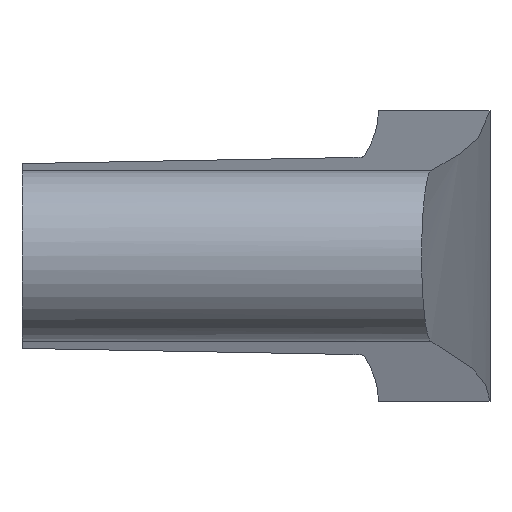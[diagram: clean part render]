
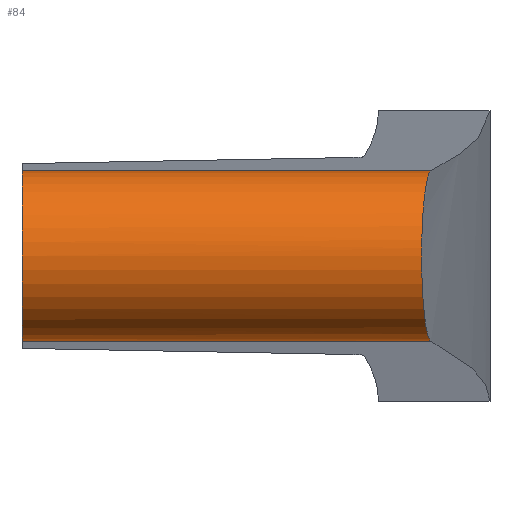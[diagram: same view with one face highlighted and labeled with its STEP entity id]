
A CAD part, left-side view. The second image highlights one B-rep face of the part: STEP entity #84.
In plain terms, the highlighted cylindrical face has radius 5.286 mm (diameter 10.571 mm), a partial arc.
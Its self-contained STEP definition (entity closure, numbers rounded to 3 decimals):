
#84 = ADVANCED_FACE( '', ( #114 ), #115, .T. );
#114 = FACE_OUTER_BOUND( '', #156, .T. );
#115 = CYLINDRICAL_SURFACE( '', #157, 5.286 );
#156 = EDGE_LOOP( '', ( #246, #247, #248, #249, #250 ) );
#157 = AXIS2_PLACEMENT_3D( '', #251, #252, #253 );
#246 = ORIENTED_EDGE( '', *, *, #369, .F. );
#247 = ORIENTED_EDGE( '', *, *, #370, .F. );
#248 = ORIENTED_EDGE( '', *, *, #371, .F. );
#249 = ORIENTED_EDGE( '', *, *, #365, .T. );
#250 = ORIENTED_EDGE( '', *, *, #372, .F. );
#251 = CARTESIAN_POINT( '', ( -2.214, 60., 0. ) );
#252 = DIRECTION( '', ( 0., 1., 0. ) );
#253 = DIRECTION( '', ( -0.056, 0., -0.998 ) );
#365 = EDGE_CURVE( '', #435, #433, #436, .T. );
#369 = EDGE_CURVE( '', #442, #443, #444, .T. );
#370 = EDGE_CURVE( '', #445, #442, #446, .T. );
#371 = EDGE_CURVE( '', #435, #445, #447, .T. );
#372 = EDGE_CURVE( '', #443, #433, #448, .T. );
#433 = VERTEX_POINT( '', #560 );
#435 = VERTEX_POINT( '', #562 );
#436 = LINE( '', #563, #564 );
#442 = VERTEX_POINT( '', #572 );
#443 = VERTEX_POINT( '', #573 );
#444 = B_SPLINE_CURVE_WITH_KNOTS( '', 3, ( #574, #575, #576, #577, #578, #579, #580, #581, #582, #583, #584, #585, #586, #587, #588, #589, #590, #591 ), .UNSPECIFIED., .F., .F., ( 4, 2, 2, 2, 2, 2, 2, 2, 4 ), ( -7.695, -6.988, -5.986, -4.983, -3.981, -2.986, -1.991, -0.995, 0. ), .UNSPECIFIED. );
#445 = VERTEX_POINT( '', #592 );
#446 = LINE( '', #593, #594 );
#447 = CIRCLE( '', #595, 5.286 );
#448 = B_SPLINE_CURVE_WITH_KNOTS( '', 3, ( #596, #597, #598, #599, #600, #601, #602, #603, #604, #605, #606, #607, #608, #609, #610, #611, #612, #613 ), .UNSPECIFIED., .F., .F., ( 4, 2, 2, 2, 2, 2, 2, 2, 4 ), ( 0., 0.995, 1.991, 2.986, 3.981, 4.983, 5.986, 6.988, 7.695 ), .UNSPECIFIED. );
#560 = CARTESIAN_POINT( '', ( -2.51, -25.336, -5.277 ) );
#562 = CARTESIAN_POINT( '', ( -2.51, 0., -5.277 ) );
#563 = CARTESIAN_POINT( '', ( -2.51, 60., -5.277 ) );
#564 = VECTOR( '', #701, 1. );
#572 = CARTESIAN_POINT( '', ( -2.51, -25.336, 5.277 ) );
#573 = CARTESIAN_POINT( '', ( -7.5, -24.764, 0. ) );
#574 = CARTESIAN_POINT( '', ( -2.51, -25.336, 5.277 ) );
#575 = CARTESIAN_POINT( '', ( -2.748, -25.31, 5.264 ) );
#576 = CARTESIAN_POINT( '', ( -2.99, -25.283, 5.234 ) );
#577 = CARTESIAN_POINT( '', ( -3.573, -25.218, 5.12 ) );
#578 = CARTESIAN_POINT( '', ( -3.913, -25.18, 5.018 ) );
#579 = CARTESIAN_POINT( '', ( -4.565, -25.106, 4.747 ) );
#580 = CARTESIAN_POINT( '', ( -4.878, -25.07, 4.579 ) );
#581 = CARTESIAN_POINT( '', ( -5.456, -25.004, 4.19 ) );
#582 = CARTESIAN_POINT( '', ( -5.721, -24.973, 3.969 ) );
#583 = CARTESIAN_POINT( '', ( -6.19, -24.918, 3.499 ) );
#584 = CARTESIAN_POINT( '', ( -6.409, -24.893, 3.234 ) );
#585 = CARTESIAN_POINT( '', ( -6.796, -24.847, 2.658 ) );
#586 = CARTESIAN_POINT( '', ( -6.964, -24.827, 2.346 ) );
#587 = CARTESIAN_POINT( '', ( -7.233, -24.796, 1.696 ) );
#588 = CARTESIAN_POINT( '', ( -7.335, -24.784, 1.357 ) );
#589 = CARTESIAN_POINT( '', ( -7.468, -24.768, 0.675 ) );
#590 = CARTESIAN_POINT( '', ( -7.5, -24.764, 0.332 ) );
#591 = CARTESIAN_POINT( '', ( -7.5, -24.764, 0. ) );
#592 = CARTESIAN_POINT( '', ( -2.51, 0., 5.277 ) );
#593 = CARTESIAN_POINT( '', ( -2.51, 60., 5.277 ) );
#594 = VECTOR( '', #707, 1. );
#595 = AXIS2_PLACEMENT_3D( '', #708, #709, #710 );
#596 = CARTESIAN_POINT( '', ( -7.5, -24.764, 0. ) );
#597 = CARTESIAN_POINT( '', ( -7.5, -24.764, -0.332 ) );
#598 = CARTESIAN_POINT( '', ( -7.468, -24.768, -0.675 ) );
#599 = CARTESIAN_POINT( '', ( -7.335, -24.784, -1.357 ) );
#600 = CARTESIAN_POINT( '', ( -7.233, -24.796, -1.696 ) );
#601 = CARTESIAN_POINT( '', ( -6.964, -24.827, -2.346 ) );
#602 = CARTESIAN_POINT( '', ( -6.796, -24.847, -2.658 ) );
#603 = CARTESIAN_POINT( '', ( -6.409, -24.893, -3.234 ) );
#604 = CARTESIAN_POINT( '', ( -6.19, -24.918, -3.499 ) );
#605 = CARTESIAN_POINT( '', ( -5.721, -24.973, -3.969 ) );
#606 = CARTESIAN_POINT( '', ( -5.456, -25.004, -4.19 ) );
#607 = CARTESIAN_POINT( '', ( -4.878, -25.07, -4.579 ) );
#608 = CARTESIAN_POINT( '', ( -4.565, -25.106, -4.747 ) );
#609 = CARTESIAN_POINT( '', ( -3.913, -25.18, -5.018 ) );
#610 = CARTESIAN_POINT( '', ( -3.573, -25.218, -5.12 ) );
#611 = CARTESIAN_POINT( '', ( -2.99, -25.283, -5.234 ) );
#612 = CARTESIAN_POINT( '', ( -2.748, -25.31, -5.264 ) );
#613 = CARTESIAN_POINT( '', ( -2.51, -25.336, -5.277 ) );
#701 = DIRECTION( '', ( 0., -1., 0. ) );
#707 = DIRECTION( '', ( 0., -1., 0. ) );
#708 = CARTESIAN_POINT( '', ( -2.214, 0., 0. ) );
#709 = DIRECTION( '', ( 0., 1., 0. ) );
#710 = DIRECTION( '', ( -0.056, 0., -0.998 ) );
